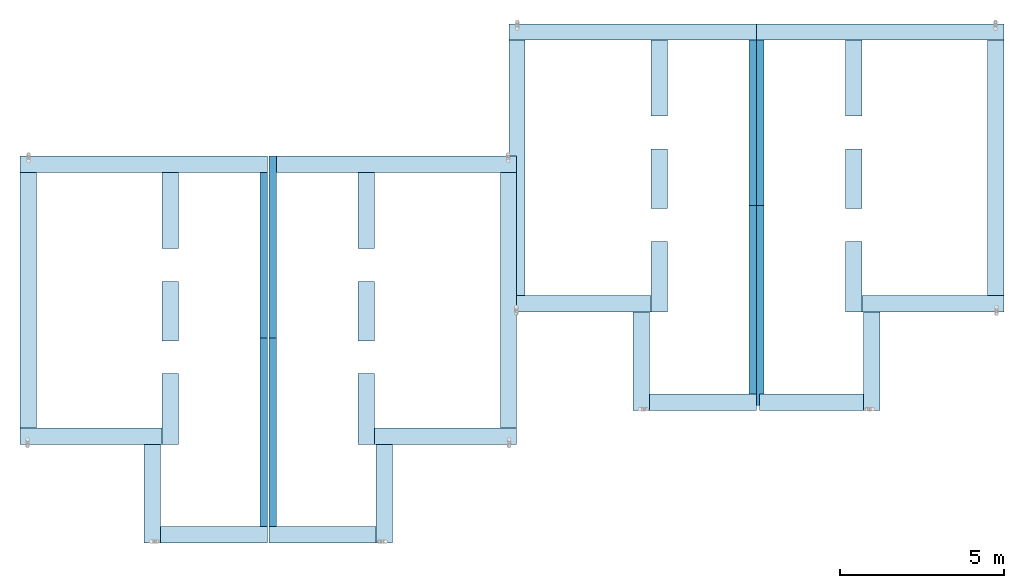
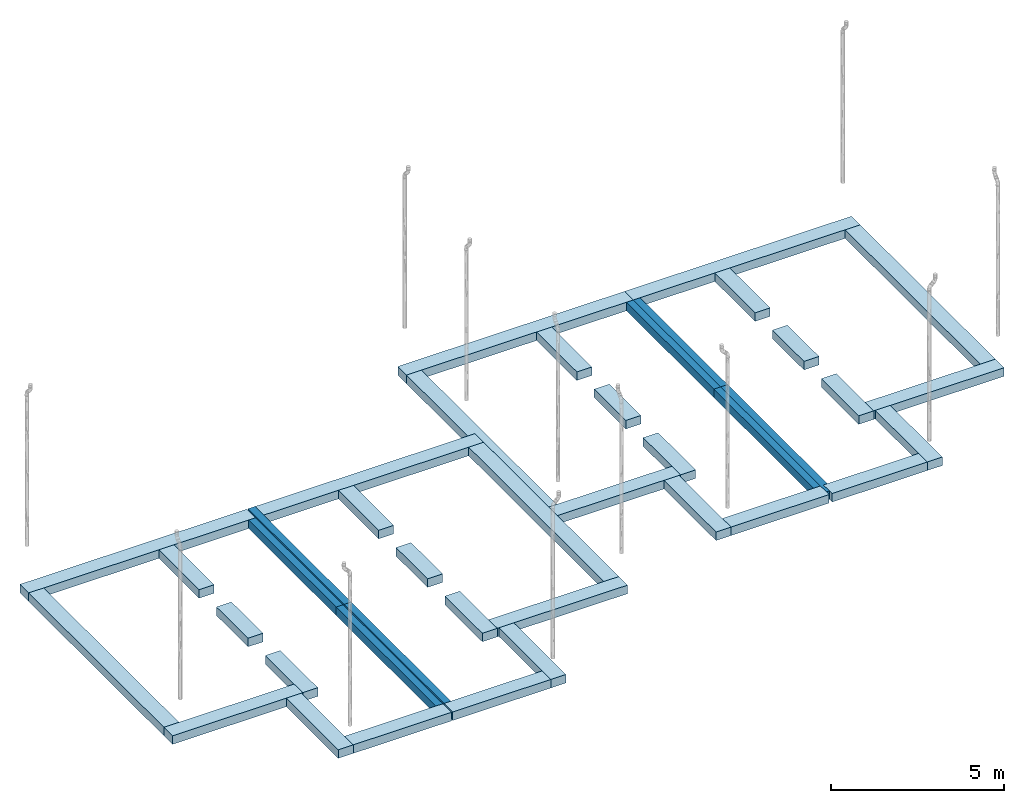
# One storey, incomplete: 32 footings.
"""IFC2X3 building model written with IfcOpenShell, lengths in metres."""

from ifc_helpers import new_model, entity, si_unit, converted_unit, derived_unit, direction, frame, frame_2d, origin, origin_2d_with_axis, place, context, subcontext, project, spatial, polyline, rectangle, outline, extrude, material, element, save


model = new_model("IFC2X3")

# Units and contexts
model_context = context("Model", 3, precision=1e-05, world=origin(), true_north=direction((6.12303176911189e-17, 1.0)))
context_of_model = context(None, 3, precision=1e-05, world=origin(), true_north=direction((6.12303176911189e-17, 1.0)))
body_context = subcontext(model_context, "Body", "Model", "MODEL_VIEW")
ifc_project = project(units=[si_unit("LENGTHUNIT", "METRE"), si_unit("AREAUNIT", "SQUARE_METRE"), si_unit("VOLUMEUNIT", "CUBIC_METRE"), converted_unit("PLANEANGLEUNIT", "DEGREE", entity("IfcRatioMeasure", 0.0174532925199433), si_unit("PLANEANGLEUNIT", "RADIAN"), dimensions=[0, 0, 0, 0, 0, 0, 0]), si_unit("MASSUNIT", "GRAM", prefix="KILO"), si_unit("TIMEUNIT", "SECOND"), si_unit("FREQUENCYUNIT", "HERTZ"), si_unit("THERMODYNAMICTEMPERATUREUNIT", "DEGREE_CELSIUS"), derived_unit("THERMALTRANSMITTANCEUNIT", [(si_unit("MASSUNIT", "GRAM", prefix="KILO"), 1), (si_unit("THERMODYNAMICTEMPERATUREUNIT", "KELVIN"), -1), (si_unit("TIMEUNIT", "SECOND"), -3)]), derived_unit("VOLUMETRICFLOWRATEUNIT", [(si_unit("LENGTHUNIT", "METRE"), 3), (si_unit("TIMEUNIT", "SECOND"), -1)]), si_unit("ELECTRICCURRENTUNIT", "AMPERE"), si_unit("ELECTRICVOLTAGEUNIT", "VOLT"), si_unit("POWERUNIT", "WATT"), si_unit("FORCEUNIT", "NEWTON", prefix="KILO"), si_unit("ILLUMINANCEUNIT", "LUX"), si_unit("LUMINOUSFLUXUNIT", "LUMEN"), si_unit("LUMINOUSINTENSITYUNIT", "CANDELA"), si_unit("PRESSUREUNIT", "PASCAL")], contexts=[model_context, context_of_model])

# Site, building, storey
site_placement = place(None, origin())
site = spatial("IfcSite", under=ifc_project, at=site_placement, Name="Surface", CompositionType="ELEMENT")
building_placement = place(site_placement, origin())
building = spatial("IfcBuilding", under=site, at=building_placement, CompositionType="ELEMENT")
storey_placement = place(building_placement, frame((0.0, 0.0, -1.0)))
storey = spatial("IfcBuildingStorey", under=building, at=storey_placement, Name="Plan de fondation", CompositionType="ELEMENT", Elevation=-1.0)

# Footings
ifc_material = material(Name="Béton")
footing_1_placement = place(storey_placement, origin())
element("IfcFooting", 1, at=footing_1_placement, inside=storey, material=ifc_material, Name="Semelle filante:semelle  ht 30 cm larg 50 cm", ObjectType="Semelle filante:semelle  ht 30 cm larg 50 cm", PredefinedType="STRIP_FOOTING", context=body_context, shape_type="SweptSolid", body=[
    extrude(rectangle(XDim=7.5582629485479, YDim=0.500000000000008, at=frame_2d((0.236032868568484, 0.125000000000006), x_axis=(1.0, 0.0))), frame((87.2698843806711, 92.2225239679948, -0.3)), (0.0, 0.0, 1.0), 0.3),
])
footing_2_placement = place(storey_placement, origin())
element("IfcFooting", 2, at=footing_2_placement, inside=storey, material=ifc_material, Name="Semelle filante:semelle  ht 30 cm larg 50 cm", ObjectType="Semelle filante:semelle  ht 30 cm larg 50 cm", PredefinedType="STRIP_FOOTING", context=body_context, shape_type="SweptSolid", body=[
    extrude(rectangle(XDim=2.15999999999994, YDim=0.500000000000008, at=frame_2d((0.116, 0.0499999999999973), x_axis=(1.0, 0.0))), frame((86.7467857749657, 84.7615239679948, -0.3), z_axis=(0.0, 0.0, 1.0), x_axis=(0.0, 1.0, 0.0)), (0.0, 0.0, 1.0), 0.3),
    extrude(rectangle(XDim=2.32000000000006, YDim=0.500000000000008, at=frame_2d((0.0, -8.67361737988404e-15), x_axis=(1.0, 0.0))), frame((86.6967857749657, 90.9375239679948, -0.3), z_axis=(0.0, 0.0, 1.0), x_axis=(0.0, -1.0, 0.0)), (0.0, 0.0, 1.0), 0.3),
    extrude(rectangle(XDim=1.82, YDim=0.500000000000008, at=frame_2d((0.0, -8.67361737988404e-15), x_axis=(1.0, 0.0))), frame((86.6967857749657, 87.8675239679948, -0.3), z_axis=(0.0, 0.0, 1.0), x_axis=(0.0, -1.0, 0.0)), (0.0, 0.0, 1.0), 0.3),
])
footing_3_placement = place(storey_placement, origin())
element("IfcFooting", 3, at=footing_3_placement, inside=storey, material=ifc_material, Name="Semelle filante:semelle  ht 30 cm larg 50 cm", ObjectType="Semelle filante:semelle  ht 30 cm larg 50 cm", PredefinedType="STRIP_FOOTING", context=body_context, shape_type="SweptSolid", body=[
    extrude(rectangle(XDim=4.33826294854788, YDim=0.500000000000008, at=frame_2d((-0.295590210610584, -0.0357142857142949), x_axis=(1.0, 0.0))), frame((88.820327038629, 84.0118096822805, -0.3), z_axis=(0.0, 0.0, 1.0), x_axis=(-1.0, 0.0, 0.0)), (0.0, 0.0, 1.0), 0.3),
])
footing_4_placement = place(storey_placement, origin())
element("IfcFooting", 4, at=footing_4_placement, inside=storey, material=ifc_material, Name="Semelle filante:semelle  ht 30 cm larg 50 cm", ObjectType="Semelle filante:semelle  ht 30 cm larg 50 cm", PredefinedType="STRIP_FOOTING", context=body_context, shape_type="SweptSolid", body=[
    extrude(rectangle(XDim=2.99999999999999, YDim=0.500000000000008, at=frame_2d((0.199999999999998, -0.0500000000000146), x_axis=(1.0, 0.0))), frame((87.1967857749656, 82.0975239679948, -0.3), z_axis=(0.0, 0.0, 1.0), x_axis=(0.0, 1.0, 0.0)), (0.0, 0.0, 1.0), 0.3),
])
footing_5_placement = place(storey_placement, origin())
element("IfcFooting", 5, at=footing_5_placement, inside=storey, material=ifc_material, Name="Semelle filante:semelle  ht 30 cm larg 50 cm", ObjectType="Semelle filante:semelle  ht 30 cm larg 50 cm", PredefinedType="STRIP_FOOTING", context=body_context, shape_type="SweptSolid", body=[
    extrude(rectangle(XDim=3.16999999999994, YDim=0.500000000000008, at=frame_2d((0.506666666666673, -0.0249999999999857), x_axis=(1.0, 0.0))), frame((84.905119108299, 81.0725239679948, -0.3)), (0.0, 0.0, 1.0), 0.3),
])
footing_6_placement = place(storey_placement, origin())
element("IfcFooting", 6, at=footing_6_placement, inside=storey, material=ifc_material, Name="Semelle filante:semelle  ht 30 cm larg 50 cm", ObjectType="Semelle filante:semelle  ht 30 cm larg 50 cm", PredefinedType="STRIP_FOOTING", context=body_context, shape_type="SweptSolid", body=[
    extrude(rectangle(XDim=7.80000000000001, YDim=0.500000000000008, at=frame_2d((-8.65973959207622e-15, -8.67361737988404e-15), x_axis=(1.0, 0.0))), frame((91.0350487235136, 88.1975239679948, -0.3), z_axis=(0.0, 0.0, 1.0), x_axis=(0.0, -1.0, 0.0)), (0.0, 0.0, 1.0), 0.3),
])
footing_7_placement = place(storey_placement, origin())
element("IfcFooting", 7, at=footing_7_placement, inside=storey, material=ifc_material, Name="Semelle filante:semelle  excentrée ht 30 cm larg 40 cm", ObjectType="Semelle filante:semelle  excentrée ht 30 cm larg 40 cm", PredefinedType="STRIP_FOOTING", context=body_context, shape_type="SweptSolid", body=[
    extrude(rectangle(XDim=5.0461876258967, YDim=0.23, at=frame_2d((-8.65973959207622e-15, 8.66667848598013e-15), x_axis=(1.0, 0.0))), frame((83.8417857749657, 89.5744301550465, -0.3), z_axis=(0.0, 0.0, 1.0), x_axis=(0.0, 1.0, 0.0)), (0.0, 0.0, 1.0), 0.3),
])
footing_8_placement = place(storey_placement, origin())
element("IfcFooting", 8, at=footing_8_placement, inside=storey, material=ifc_material, Name="Semelle filante:semelle  excentrée ht 30 cm larg 40 cm", ObjectType="Semelle filante:semelle  excentrée ht 30 cm larg 40 cm", PredefinedType="STRIP_FOOTING", context=body_context, shape_type="SweptSolid", body=[
    extrude(outline(polyline([(-4.20986598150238, -0.0942857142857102), (1.54394639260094, -0.0942857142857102), (1.89394639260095, -0.0942857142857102), (1.89394639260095, 0.00571428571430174), (1.54394639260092, 0.00571428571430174), (1.54394639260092, 0.13571428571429), (-4.20986598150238, 0.13571428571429), (-4.20986598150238, -0.0942857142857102)])), frame((83.8210714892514, 82.8414703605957, -0.3), z_axis=(0.0, 0.0, 1.0), x_axis=(0.0, -1.0, 0.0)), (0.0, 0.0, 1.0), 0.3),
])
footing_9_placement = place(storey_placement, origin())
element("IfcFooting", 9, at=footing_9_placement, inside=storey, material=ifc_material, Name="Semelle filante:semelle  ht 30 cm larg 50 cm", ObjectType="Semelle filante:semelle  ht 30 cm larg 50 cm", PredefinedType="STRIP_FOOTING", context=body_context, shape_type="SweptSolid", body=[
    extrude(rectangle(XDim=7.32826294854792, YDim=0.500000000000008, at=frame_2d((-0.592483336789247, 0.0625000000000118), x_axis=(1.0, 0.0))), frame((73.3412411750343, 88.2452566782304, -0.3)), (0.0, 0.0, 1.0), 0.3),
])
footing_10_placement = place(storey_placement, origin())
element("IfcFooting", 10, at=footing_10_placement, inside=storey, material=ifc_material, Name="Semelle filante:semelle  ht 30 cm larg 50 cm", ObjectType="Semelle filante:semelle  ht 30 cm larg 50 cm", PredefinedType="STRIP_FOOTING", context=body_context, shape_type="SweptSolid", body=[
    extrude(rectangle(XDim=2.15999999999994, YDim=0.499999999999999, at=frame_2d((0.115999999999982, 0.049999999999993), x_axis=(1.0, 0.0))), frame((71.8746263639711, 80.7217566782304, -0.3), z_axis=(0.0, 0.0, 1.0), x_axis=(0.0, 1.0, 0.0)), (0.0, 0.0, 1.0), 0.3),
    extrude(rectangle(XDim=2.32000000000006, YDim=0.499999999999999, at=frame_2d((0.0, -4.34374758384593e-15), x_axis=(1.0, 0.0))), frame((71.8246263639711, 86.8977566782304, -0.3), z_axis=(0.0, 0.0, 1.0), x_axis=(0.0, -1.0, 0.0)), (0.0, 0.0, 1.0), 0.3),
    extrude(rectangle(XDim=1.82, YDim=0.499999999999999, at=frame_2d((0.0, -4.34374758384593e-15), x_axis=(1.0, 0.0))), frame((71.8246263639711, 83.8277566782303, -0.3), z_axis=(0.0, 0.0, 1.0), x_axis=(0.0, -1.0, 0.0)), (0.0, 0.0, 1.0), 0.3),
])
footing_11_placement = place(storey_placement, origin())
element("IfcFooting", 11, at=footing_11_placement, inside=storey, material=ifc_material, Name="Semelle filante:semelle  ht 30 cm larg 50 cm", ObjectType="Semelle filante:semelle  ht 30 cm larg 50 cm", PredefinedType="STRIP_FOOTING", context=body_context, shape_type="SweptSolid", body=[
    extrude(rectangle(XDim=4.33826294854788, YDim=0.500000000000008, at=frame_2d((-0.295590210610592, -0.0357142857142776), x_axis=(1.0, 0.0))), frame((73.9481676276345, 79.9720423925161, -0.3), z_axis=(0.0, 0.0, 1.0), x_axis=(-1.0, 0.0, 0.0)), (0.0, 0.0, 1.0), 0.3),
])
footing_12_placement = place(storey_placement, origin())
element("IfcFooting", 12, at=footing_12_placement, inside=storey, material=ifc_material, Name="Semelle filante:semelle  ht 30 cm larg 50 cm", ObjectType="Semelle filante:semelle  ht 30 cm larg 50 cm", PredefinedType="STRIP_FOOTING", context=body_context, shape_type="SweptSolid", body=[
    extrude(rectangle(XDim=3.0, YDim=0.499999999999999, at=frame_2d((0.199999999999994, -0.0500000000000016), x_axis=(1.0, 0.0))), frame((72.3246263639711, 78.0577566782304, -0.3), z_axis=(0.0, 0.0, 1.0), x_axis=(0.0, 1.0, 0.0)), (0.0, 0.0, 1.0), 0.3),
])
footing_13_placement = place(storey_placement, origin())
element("IfcFooting", 13, at=footing_13_placement, inside=storey, material=ifc_material, Name="Semelle filante:semelle  ht 30 cm larg 50 cm", ObjectType="Semelle filante:semelle  ht 30 cm larg 50 cm", PredefinedType="STRIP_FOOTING", context=body_context, shape_type="SweptSolid", body=[
    extrude(rectangle(XDim=3.26999999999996, YDim=0.499999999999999, at=frame_2d((0.280999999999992, -0.0500000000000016), x_axis=(1.0, 0.0))), frame((70.2086263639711, 77.0577566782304, -0.3)), (0.0, 0.0, 1.0), 0.3),
])
footing_14_placement = place(storey_placement, origin())
element("IfcFooting", 14, at=footing_14_placement, inside=storey, material=ifc_material, Name="Semelle filante:semelle  ht 30 cm larg 50 cm", ObjectType="Semelle filante:semelle  ht 30 cm larg 50 cm", PredefinedType="STRIP_FOOTING", context=body_context, shape_type="SweptSolid", body=[
    extrude(rectangle(XDim=7.79999999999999, YDim=0.499999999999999, at=frame_2d((-0.0367442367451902, -0.0833333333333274), x_axis=(1.0, 0.0))), frame((76.2462226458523, 84.1210124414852, -0.3), z_axis=(0.0, 0.0, 1.0), x_axis=(0.0, -1.0, 0.0)), (0.0, 0.0, 1.0), 0.3),
])
footing_15_placement = place(storey_placement, origin())
element("IfcFooting", 15, at=footing_15_placement, inside=storey, material=ifc_material, Name="Semelle filante:semelle  excentrée ht 30 cm larg 40 cm", ObjectType="Semelle filante:semelle  excentrée ht 30 cm larg 40 cm", PredefinedType="STRIP_FOOTING", context=body_context, shape_type="SweptSolid", body=[
    extrude(rectangle(XDim=5.5461876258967, YDim=0.23, at=frame_2d((-0.454618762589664, 0.0230000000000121), x_axis=(1.0, 0.0))), frame((68.9926263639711, 86.2392816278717, -0.3), z_axis=(0.0, 0.0, 1.0), x_axis=(0.0, 1.0, 0.0)), (0.0, 0.0, 1.0), 0.3),
])
footing_16_placement = place(storey_placement, origin())
element("IfcFooting", 16, at=footing_16_placement, inside=storey, material=ifc_material, Name="Semelle filante:semelle  excentrée ht 30 cm larg 40 cm", ObjectType="Semelle filante:semelle  excentrée ht 30 cm larg 40 cm", PredefinedType="STRIP_FOOTING", context=body_context, shape_type="SweptSolid", body=[
    extrude(rectangle(XDim=5.75381237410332, YDim=0.23, at=origin_2d_with_axis()), frame((68.9696263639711, 80.134662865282, -0.3), z_axis=(0.0, 0.0, 1.0), x_axis=(0.0, -1.0, 0.0)), (0.0, 0.0, 1.0), 0.3),
])
footing_17_placement = place(storey_placement, origin())
element("IfcFooting", 17, at=footing_17_placement, inside=storey, material=ifc_material, Name="Semelle filante:semelle  ht 30 cm larg 50 cm", ObjectType="Semelle filante:semelle  ht 30 cm larg 50 cm", PredefinedType="STRIP_FOOTING", context=body_context, shape_type="SweptSolid", body=[
    extrude(rectangle(XDim=7.55826294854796, YDim=0.500000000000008, at=frame_2d((0.236032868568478, -0.125), x_axis=(1.0, 0.0))), frame((65.2715277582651, 88.1827566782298, -0.3), z_axis=(0.0, 0.0, 1.0), x_axis=(-1.0, 0.0, 0.0)), (0.0, 0.0, 1.0), 0.3),
])
footing_18_placement = place(storey_placement, origin())
element("IfcFooting", 18, at=footing_18_placement, inside=storey, material=ifc_material, Name="Semelle filante:semelle  ht 30 cm larg 50 cm", ObjectType="Semelle filante:semelle  ht 30 cm larg 50 cm", PredefinedType="STRIP_FOOTING", context=body_context, shape_type="SweptSolid", body=[
    extrude(rectangle(XDim=2.16000000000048, YDim=0.499999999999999, at=frame_2d((0.116000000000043, -0.0499999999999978), x_axis=(1.0, 0.0))), frame((65.7946263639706, 80.72175667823, -0.3), z_axis=(0.0, 0.0, 1.0), x_axis=(0.0, 1.0, 0.0)), (0.0, 0.0, 1.0), 0.3),
    extrude(rectangle(XDim=2.31999999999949, YDim=0.499999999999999, at=frame_2d((8.65973959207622e-15, -4.34374758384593e-15), x_axis=(1.0, 0.0))), frame((65.8446263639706, 86.8977566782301, -0.3), z_axis=(0.0, 0.0, 1.0), x_axis=(0.0, -1.0, 0.0)), (0.0, 0.0, 1.0), 0.3),
    extrude(rectangle(XDim=1.82, YDim=0.499999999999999, at=origin_2d_with_axis()), frame((65.8446263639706, 83.8277566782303, -0.3), z_axis=(0.0, 0.0, 1.0), x_axis=(0.0, -1.0, 0.0)), (0.0, 0.0, 1.0), 0.3),
])
footing_19_placement = place(storey_placement, origin())
element("IfcFooting", 19, at=footing_19_placement, inside=storey, material=ifc_material, Name="Semelle filante:semelle  ht 30 cm larg 50 cm", ObjectType="Semelle filante:semelle  ht 30 cm larg 50 cm", PredefinedType="STRIP_FOOTING", context=body_context, shape_type="SweptSolid", body=[
    extrude(rectangle(XDim=4.33826294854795, YDim=0.500000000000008, at=frame_2d((-0.295590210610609, 0.0357142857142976), x_axis=(1.0, 0.0))), frame((63.7210851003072, 79.9720423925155, -0.3)), (0.0, 0.0, 1.0), 0.3),
])
footing_20_placement = place(storey_placement, origin())
element("IfcFooting", 20, at=footing_20_placement, inside=storey, material=ifc_material, Name="Semelle filante:semelle  ht 30 cm larg 50 cm", ObjectType="Semelle filante:semelle  ht 30 cm larg 50 cm", PredefinedType="STRIP_FOOTING", context=body_context, shape_type="SweptSolid", body=[
    extrude(rectangle(XDim=3.00000000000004, YDim=0.499999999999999, at=frame_2d((0.200000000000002, 0.0500000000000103), x_axis=(1.0, 0.0))), frame((65.3446263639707, 78.0577566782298, -0.3), z_axis=(0.0, 0.0, 1.0), x_axis=(0.0, 1.0, 0.0)), (0.0, 0.0, 1.0), 0.3),
])
footing_21_placement = place(storey_placement, origin())
element("IfcFooting", 21, at=footing_21_placement, inside=storey, material=ifc_material, Name="Semelle filante:semelle  ht 30 cm larg 50 cm", ObjectType="Semelle filante:semelle  ht 30 cm larg 50 cm", PredefinedType="STRIP_FOOTING", context=body_context, shape_type="SweptSolid", body=[
    extrude(rectangle(XDim=3.26999999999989, YDim=0.499999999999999, at=frame_2d((0.281000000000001, 0.050000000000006), x_axis=(1.0, 0.0))), frame((67.4606263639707, 77.0577566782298, -0.3), z_axis=(0.0, 0.0, 1.0), x_axis=(-1.0, 0.0, 0.0)), (0.0, 0.0, 1.0), 0.3),
])
footing_22_placement = place(storey_placement, origin())
element("IfcFooting", 22, at=footing_22_placement, inside=storey, material=ifc_material, Name="Semelle filante:semelle  ht 30 cm larg 50 cm", ObjectType="Semelle filante:semelle  ht 30 cm larg 50 cm", PredefinedType="STRIP_FOOTING", context=body_context, shape_type="SweptSolid", body=[
    extrude(rectangle(XDim=7.79999999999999, YDim=0.499999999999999, at=frame_2d((-8.65973959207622e-15, 4.34374758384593e-15), x_axis=(1.0, 0.0))), frame((61.5063634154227, 84.1577566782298, -0.3), z_axis=(0.0, 0.0, 1.0), x_axis=(0.0, -1.0, 0.0)), (0.0, 0.0, 1.0), 0.3),
])
footing_23_placement = place(storey_placement, origin())
element("IfcFooting", 23, at=footing_23_placement, inside=storey, material=ifc_material, Name="Semelle filante:semelle  excentrée ht 30 cm larg 40 cm", ObjectType="Semelle filante:semelle  excentrée ht 30 cm larg 40 cm", PredefinedType="STRIP_FOOTING", context=body_context, shape_type="SweptSolid", body=[
    extrude(rectangle(XDim=5.0461876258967, YDim=0.23, at=frame_2d((8.65973959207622e-15, 0.0), x_axis=(1.0, 0.0))), frame((68.6996263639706, 85.5346628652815, -0.3), z_axis=(0.0, 0.0, 1.0), x_axis=(0.0, 1.0, 0.0)), (0.0, 0.0, 1.0), 0.3),
])
footing_24_placement = place(storey_placement, origin())
element("IfcFooting", 24, at=footing_24_placement, inside=storey, material=ifc_material, Name="Semelle filante:semelle  excentrée ht 30 cm larg 40 cm", ObjectType="Semelle filante:semelle  excentrée ht 30 cm larg 40 cm", PredefinedType="STRIP_FOOTING", context=body_context, shape_type="SweptSolid", body=[
    extrude(rectangle(XDim=5.75381237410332, YDim=0.23, at=frame_2d((-4.44089209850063e-15, -4.33680868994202e-15), x_axis=(1.0, 0.0))), frame((68.6996263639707, 80.1346628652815, -0.3), z_axis=(0.0, 0.0, 1.0), x_axis=(0.0, -1.0, 0.0)), (0.0, 0.0, 1.0), 0.3),
])
footing_25_placement = place(storey_placement, origin())
element("IfcFooting", 25, at=footing_25_placement, inside=storey, material=ifc_material, Name="Semelle filante:semelle  ht 30 cm larg 50 cm", ObjectType="Semelle filante:semelle  ht 30 cm larg 50 cm", PredefinedType="STRIP_FOOTING", context=body_context, shape_type="SweptSolid", body=[
    extrude(rectangle(XDim=7.55402976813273, YDim=0.500000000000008, at=frame_2d((0.237091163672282, -0.124999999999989), x_axis=(1.0, 0.0))), frame((80.1868620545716, 92.2225239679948, -0.3), z_axis=(0.0, 0.0, 1.0), x_axis=(-1.0, 0.0, 0.0)), (0.0, 0.0, 1.0), 0.3),
])
footing_26_placement = place(storey_placement, origin())
element("IfcFooting", 26, at=footing_26_placement, inside=storey, material=ifc_material, Name="Semelle filante:semelle  ht 30 cm larg 50 cm", ObjectType="Semelle filante:semelle  ht 30 cm larg 50 cm", PredefinedType="STRIP_FOOTING", context=body_context, shape_type="SweptSolid", body=[
    extrude(rectangle(XDim=2.15999999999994, YDim=0.500000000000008, at=frame_2d((0.116, -0.04999999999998), x_axis=(1.0, 0.0))), frame((80.7110189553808, 84.7615239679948, -0.3), z_axis=(0.0, 0.0, 1.0), x_axis=(0.0, 1.0, 0.0)), (0.0, 0.0, 1.0), 0.3),
    extrude(rectangle(XDim=2.32000000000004, YDim=0.500000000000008, at=frame_2d((-8.65973959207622e-15, 8.67361737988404e-15), x_axis=(1.0, 0.0))), frame((80.7610189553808, 90.9375239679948, -0.3), z_axis=(0.0, 0.0, 1.0), x_axis=(0.0, 1.0, 0.0)), (0.0, 0.0, 1.0), 0.3),
    extrude(rectangle(XDim=1.82, YDim=0.500000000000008, at=frame_2d((0.0, 8.67361737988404e-15), x_axis=(1.0, 0.0))), frame((80.7610189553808, 87.8675239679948, -0.3), z_axis=(0.0, 0.0, 1.0), x_axis=(0.0, -1.0, 0.0)), (0.0, 0.0, 1.0), 0.3),
])
footing_27_placement = place(storey_placement, origin())
element("IfcFooting", 27, at=footing_27_placement, inside=storey, material=ifc_material, Name="Semelle filante:semelle  ht 30 cm larg 50 cm", ObjectType="Semelle filante:semelle  ht 30 cm larg 50 cm", PredefinedType="STRIP_FOOTING", context=body_context, shape_type="SweptSolid", body=[
    extrude(rectangle(XDim=4.09812964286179, YDim=0.500000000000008, at=frame_2d((0.244133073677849, -0.035714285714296), x_axis=(1.0, 0.0))), frame((78.7060872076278, 84.0118096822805, -0.3), z_axis=(0.0, 0.0, 1.0), x_axis=(-1.0, 0.0, 0.0)), (0.0, 0.0, 1.0), 0.3),
])
footing_28_placement = place(storey_placement, origin())
element("IfcFooting", 28, at=footing_28_placement, inside=storey, material=ifc_material, Name="Semelle filante:semelle  ht 30 cm larg 50 cm", ObjectType="Semelle filante:semelle  ht 30 cm larg 50 cm", PredefinedType="STRIP_FOOTING", context=body_context, shape_type="SweptSolid", body=[
    extrude(rectangle(XDim=3.00000000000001, YDim=0.500000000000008, at=frame_2d((0.200000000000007, 0.0499999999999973), x_axis=(1.0, 0.0))), frame((80.2610189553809, 82.0975239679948, -0.3), z_axis=(0.0, 0.0, 1.0), x_axis=(0.0, 1.0, 0.0)), (0.0, 0.0, 1.0), 0.3),
])
footing_29_placement = place(storey_placement, origin())
element("IfcFooting", 29, at=footing_29_placement, inside=storey, material=ifc_material, Name="Semelle filante:semelle  ht 30 cm larg 50 cm", ObjectType="Semelle filante:semelle  ht 30 cm larg 50 cm", PredefinedType="STRIP_FOOTING", context=body_context, shape_type="SweptSolid", body=[
    extrude(rectangle(XDim=3.26576681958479, YDim=0.500000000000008, at=frame_2d((0.506666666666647, 0.0249999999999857), x_axis=(1.0, 0.0))), frame((82.6005690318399, 81.0725239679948, -0.3), z_axis=(0.0, 0.0, 1.0), x_axis=(-1.0, 0.0, 0.0)), (0.0, 0.0, 1.0), 0.3),
])
footing_30_placement = place(storey_placement, origin())
element("IfcFooting", 30, at=footing_30_placement, inside=storey, material=ifc_material, Name="Semelle filante:semelle  ht 30 cm larg 50 cm", ObjectType="Semelle filante:semelle  ht 30 cm larg 50 cm", PredefinedType="STRIP_FOOTING", context=body_context, shape_type="SweptSolid", body=[
    extrude(outline(polyline([(-3.81704312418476, -0.245771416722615), (-0.277275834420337, -0.245771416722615), (-0.277275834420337, -0.00563811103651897), (0.222724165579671, -0.00563811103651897), (3.98295687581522, -0.00563811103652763), (3.98295687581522, 0.254228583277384), (-3.81704312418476, 0.254228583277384), (-3.81704312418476, -0.245771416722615)])), frame((76.4185274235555, 88.28048084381, -0.3), z_axis=(0.0, 0.0, 1.0), x_axis=(0.0, -1.0, 0.0)), (0.0, 0.0, 1.0), 0.3),
])
footing_31_placement = place(storey_placement, origin())
element("IfcFooting", 31, at=footing_31_placement, inside=storey, material=ifc_material, Name="Semelle filante:semelle  excentrée ht 30 cm larg 40 cm", ObjectType="Semelle filante:semelle  excentrée ht 30 cm larg 40 cm", PredefinedType="STRIP_FOOTING", context=body_context, shape_type="SweptSolid", body=[
    extrude(rectangle(XDim=0.225766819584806, YDim=5.04618762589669, at=origin_2d_with_axis()), frame((83.6139023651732, 89.5744301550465, -0.3)), (0.0, 0.0, 1.0), 0.3),
])
footing_32_placement = place(storey_placement, origin())
element("IfcFooting", 32, at=footing_32_placement, inside=storey, material=ifc_material, Name="Semelle filante:semelle  excentrée ht 30 cm larg 40 cm", ObjectType="Semelle filante:semelle  excentrée ht 30 cm larg 40 cm", PredefinedType="STRIP_FOOTING", context=body_context, shape_type="SweptSolid", body=[
    extrude(rectangle(XDim=5.75381237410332, YDim=0.225766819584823, at=frame_2d((0.0, 8.66667848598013e-15), x_axis=(1.0, 0.0))), frame((83.6139023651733, 84.1744301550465, -0.3), z_axis=(0.0, 0.0, 1.0), x_axis=(0.0, 1.0, 0.0)), (0.0, 0.0, 1.0), 0.3),
])

save(model, "model.ifc")
